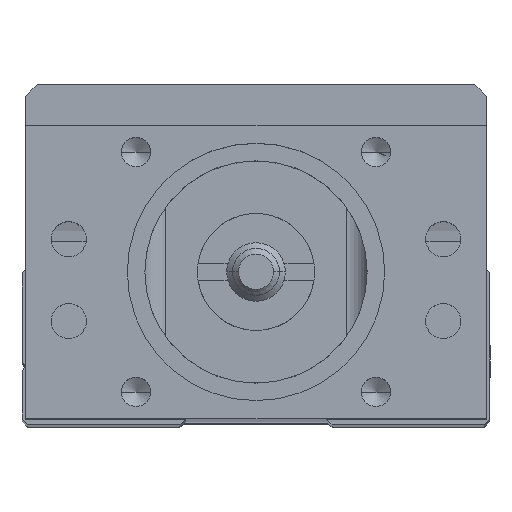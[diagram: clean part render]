
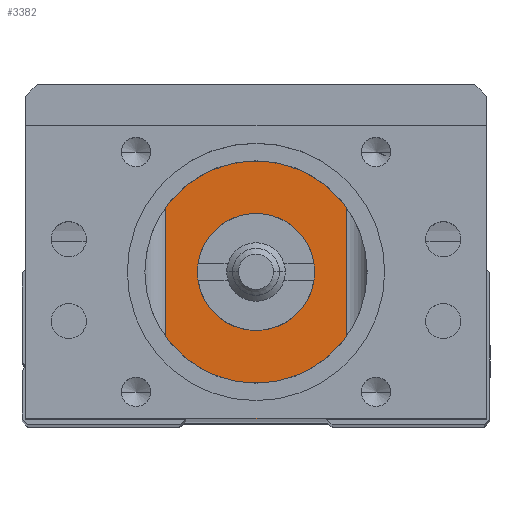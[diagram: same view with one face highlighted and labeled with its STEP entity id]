
A CAD part, top view. The second image highlights one B-rep face of the part: STEP entity #3382.
In plain terms, the highlighted planar face has unit normal (0, 0, 1).
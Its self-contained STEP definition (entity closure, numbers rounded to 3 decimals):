
#2872 = EDGE_CURVE ( 'NONE', #2947, #2950, #6648, .T. ) ;
#2873 = EDGE_CURVE ( 'NONE', #2906, #2904, #6698, .T. ) ;
#2876 = ORIENTED_EDGE ( 'NONE', *, *, #2873, .F. ) ;
#2877 = EDGE_LOOP ( 'NONE', ( #2876, #2936 ) ) ;
#2888 = EDGE_CURVE ( 'NONE', #2904, #2906, #6684, .T. ) ;
#2904 = VERTEX_POINT ( 'NONE', #6732 ) ;
#2906 = VERTEX_POINT ( 'NONE', #6764 ) ;
#2936 = ORIENTED_EDGE ( 'NONE', *, *, #2888, .F. ) ;
#2946 = EDGE_CURVE ( 'NONE', #2948, #2950, #6824, .T. ) ;
#2947 = VERTEX_POINT ( 'NONE', #6812 ) ;
#2948 = VERTEX_POINT ( 'NONE', #6811 ) ;
#2949 = VERTEX_POINT ( 'NONE', #6808 ) ;
#2950 = VERTEX_POINT ( 'NONE', #6807 ) ;
#2951 = ORIENTED_EDGE ( 'NONE', *, *, #2953, .T. ) ;
#2952 = ORIENTED_EDGE ( 'NONE', *, *, #2955, .T. ) ;
#2953 = EDGE_CURVE ( 'NONE', #2949, #2947, #6806, .T. ) ;
#2955 = EDGE_CURVE ( 'NONE', #2948, #2949, #6803, .T. ) ;
#2959 = ORIENTED_EDGE ( 'NONE', *, *, #2872, .T. ) ;
#3321 = ORIENTED_EDGE ( 'NONE', *, *, #2946, .F. ) ;
#3379 = EDGE_LOOP ( 'NONE', ( #3321, #2952, #2951, #2959 ) ) ;
#3382 = ADVANCED_FACE ( 'NONE', ( #7618, #7614 ), #7617, .F. ) ;
#5695 = DIRECTION ( 'NONE',  ( 0., 0., 1. ) ) ;
#5696 = CARTESIAN_POINT ( 'NONE',  ( 0., 13.05, 72.5 ) ) ;
#5955 = DIRECTION ( 'NONE',  ( -1., 0., 0. ) ) ;
#6643 = AXIS2_PLACEMENT_3D ( 'NONE', #6699, #6692, #6691 ) ;
#6647 = CARTESIAN_POINT ( 'NONE',  ( -7.7, 0.5, 72.5 ) ) ;
#6648 = LINE ( 'NONE', #6647, #6697 ) ;
#6673 = AXIS2_PLACEMENT_3D ( 'NONE', #5696, #5695, #5955 ) ;
#6684 = CIRCLE ( 'NONE', #6673, 5. ) ;
#6691 = DIRECTION ( 'NONE',  ( -1., 0., 0. ) ) ;
#6692 = DIRECTION ( 'NONE',  ( 0., 0., 1. ) ) ;
#6696 = DIRECTION ( 'NONE',  ( 0., -1., 0. ) ) ;
#6697 = VECTOR ( 'NONE', #6696, 1000. ) ;
#6698 = CIRCLE ( 'NONE', #6643, 5. ) ;
#6699 = CARTESIAN_POINT ( 'NONE',  ( 0., 13.05, 72.5 ) ) ;
#6732 = CARTESIAN_POINT ( 'NONE',  ( 5., 13.05, 72.5 ) ) ;
#6764 = CARTESIAN_POINT ( 'NONE',  ( -5., 13.05, 72.5 ) ) ;
#6801 = DIRECTION ( 'NONE',  ( -1., 0., 0. ) ) ;
#6803 = LINE ( 'NONE', #6856, #6855 ) ;
#6804 = VECTOR ( 'NONE', #6801, 1000. ) ;
#6805 = CARTESIAN_POINT ( 'NONE',  ( -9.7, 25.5, 72.5 ) ) ;
#6806 = LINE ( 'NONE', #6805, #6804 ) ;
#6807 = CARTESIAN_POINT ( 'NONE',  ( -7.7, 0.5, 72.5 ) ) ;
#6808 = CARTESIAN_POINT ( 'NONE',  ( 7.7, 25.5, 72.5 ) ) ;
#6809 = DIRECTION ( 'NONE',  ( -1., 0., 0. ) ) ;
#6810 = VECTOR ( 'NONE', #6809, 1000. ) ;
#6811 = CARTESIAN_POINT ( 'NONE',  ( 7.7, 0.5, 72.5 ) ) ;
#6812 = CARTESIAN_POINT ( 'NONE',  ( -7.7, 25.5, 72.5 ) ) ;
#6813 = CARTESIAN_POINT ( 'NONE',  ( -6., 0.5, 72.5 ) ) ;
#6824 = LINE ( 'NONE', #6813, #6810 ) ;
#6854 = DIRECTION ( 'NONE',  ( 0., 1., 0. ) ) ;
#6855 = VECTOR ( 'NONE', #6854, 1000. ) ;
#6856 = CARTESIAN_POINT ( 'NONE',  ( 7.7, 25.5, 72.5 ) ) ;
#7569 = CARTESIAN_POINT ( 'NONE',  ( -9.7, 0., 72.5 ) ) ;
#7573 = AXIS2_PLACEMENT_3D ( 'NONE', #7569, #7620, #7611 ) ;
#7611 = DIRECTION ( 'NONE',  ( -1., 0., 0. ) ) ;
#7614 = FACE_BOUND ( 'NONE', #2877, .T. ) ;
#7617 = PLANE ( 'NONE',  #7573 ) ;
#7618 = FACE_OUTER_BOUND ( 'NONE', #3379, .T. ) ;
#7620 = DIRECTION ( 'NONE',  ( 0., 0., -1. ) ) ;
